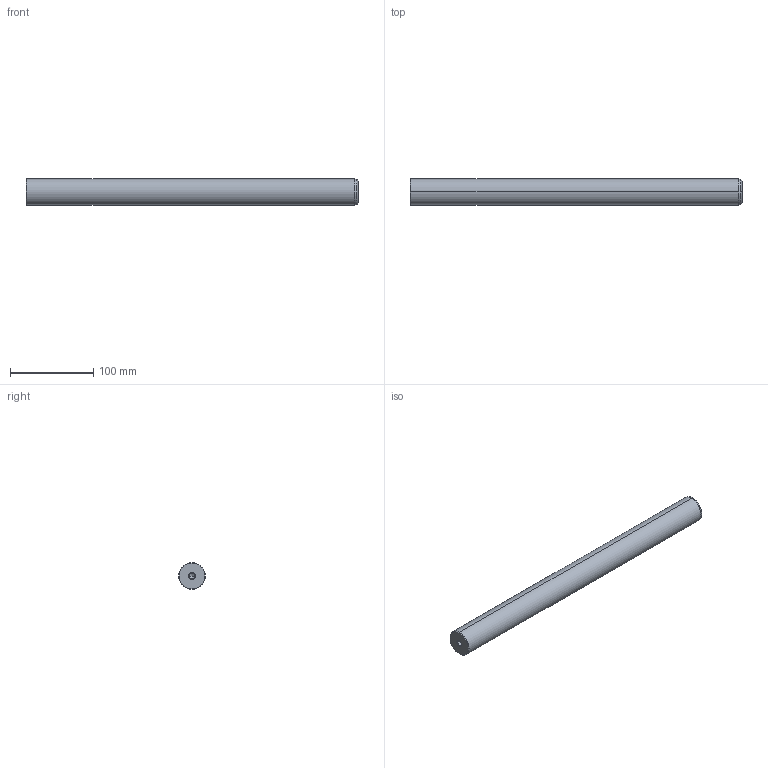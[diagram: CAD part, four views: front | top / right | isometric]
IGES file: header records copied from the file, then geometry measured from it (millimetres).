
Start section: START RECORD GO HERE.
Global section: file name: 720-32x400.igs; native system: DASSAULT SYSTEMES CATIA V5 R20 - www.3ds.com; preprocessor: CATIA Version 5 Release 20 ; author: Utente; organization: NB04-ASUS; date: 20210101.131109; units: millimetre
Bounding box: 400 x 32 x 32 mm (x, y, z)
Surface area: 42605.1 mm2 (no closed solid volume)
Topology: 0 solids, 0 shells, 22 faces, 120 edges, 116 vertices
Faces by surface type: revolution 20, plane 2
